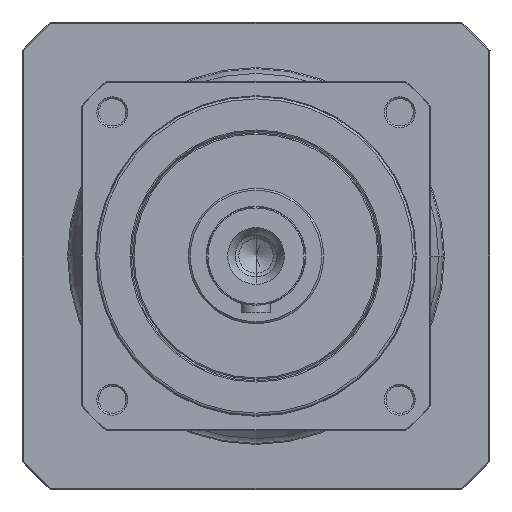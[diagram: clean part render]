
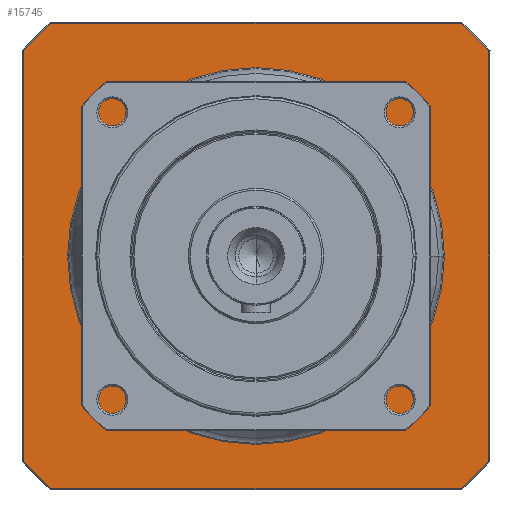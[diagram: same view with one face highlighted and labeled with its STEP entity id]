
A CAD part, left-side view. The second image highlights one B-rep face of the part: STEP entity #15745.
In plain terms, the highlighted planar face has unit normal (-1, 0, 0) as drawn and (0, 0, -1) by its records, which use the part's own axes.
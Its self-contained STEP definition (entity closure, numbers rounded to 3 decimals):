
#14627=CARTESIAN_POINT('',(0.,0.,
2.5));
#14628=DIRECTION('',(0.,0.,-1.));
#14629=DIRECTION('',(0.,-1.,0.));
#14630=AXIS2_PLACEMENT_3D('',#14627,#14628,#14629);
#14632=CARTESIAN_POINT('',(0.,0.,
2.5));
#14633=DIRECTION('',(0.,0.,-1.));
#14634=DIRECTION('',(0.,1.,0.));
#14635=AXIS2_PLACEMENT_3D('',#14632,#14633,#14634);
#14637=CARTESIAN_POINT('',(0.,0.,2.5));
#14638=DIRECTION('',(0.,0.,1.));
#14639=DIRECTION('',(-0.75,-0.661,0.));
#14640=AXIS2_PLACEMENT_3D('',#14637,#14638,#14639);
#14642=DIRECTION('',(1.,0.,0.));
#14643=VECTOR('',#14642,166.682);
#14644=CARTESIAN_POINT('',(-83.341,-94.5,
2.5));
#14645=LINE('',#14644,#14643);
#14646=CARTESIAN_POINT('',(0.,0.,2.5));
#14647=DIRECTION('',(0.,0.,1.));
#14648=DIRECTION('',(0.661,-0.75,0.));
#14649=AXIS2_PLACEMENT_3D('',#14646,#14647,#14648);
#14651=DIRECTION('',(0.,1.,0.));
#14652=VECTOR('',#14651,166.682);
#14653=CARTESIAN_POINT('',(94.5,-83.341,
2.5));
#14654=LINE('',#14653,#14652);
#14655=CARTESIAN_POINT('',(0.,0.,2.5));
#14656=DIRECTION('',(0.,0.,1.));
#14657=DIRECTION('',(0.75,0.661,0.));
#14658=AXIS2_PLACEMENT_3D('',#14655,#14656,#14657);
#14660=DIRECTION('',(-1.,0.,0.));
#14661=VECTOR('',#14660,166.682);
#14662=CARTESIAN_POINT('',(83.341,94.5,2.5));
#14663=LINE('',#14662,#14661);
#14664=CARTESIAN_POINT('',(0.,0.,2.5));
#14665=DIRECTION('',(0.,0.,1.));
#14666=DIRECTION('',(-0.661,0.75,0.));
#14667=AXIS2_PLACEMENT_3D('',#14664,#14665,#14666);
#14669=DIRECTION('',(0.,-1.,0.));
#14670=VECTOR('',#14669,166.682);
#14671=CARTESIAN_POINT('',(-94.5,83.341,
2.5));
#14672=LINE('',#14671,#14670);
#15394=CARTESIAN_POINT('',(0.,-76.5,2.5));
#15395=CARTESIAN_POINT('',(0.,76.5,
2.5));
#15396=VERTEX_POINT('',#15394);
#15397=VERTEX_POINT('',#15395);
#15498=CARTESIAN_POINT('',(-94.5,-83.341,2.5));
#15499=CARTESIAN_POINT('',(-83.341,-94.5,2.5));
#15500=VERTEX_POINT('',#15498);
#15501=VERTEX_POINT('',#15499);
#15506=CARTESIAN_POINT('',(83.341,-94.5,
2.5));
#15507=VERTEX_POINT('',#15506);
#15510=CARTESIAN_POINT('',(94.5,-83.341,2.5));
#15511=VERTEX_POINT('',#15510);
#15514=CARTESIAN_POINT('',(94.5,83.341,2.5));
#15515=VERTEX_POINT('',#15514);
#15518=CARTESIAN_POINT('',(83.341,94.5,2.5));
#15519=VERTEX_POINT('',#15518);
#15522=CARTESIAN_POINT('',(-83.341,94.5,
2.5));
#15523=VERTEX_POINT('',#15522);
#15528=CARTESIAN_POINT('',(-94.5,83.341,2.5));
#15529=VERTEX_POINT('',#15528);
#15717=CARTESIAN_POINT('',(0.,0.,2.5));
#15718=DIRECTION('',(0.,0.,1.));
#15719=DIRECTION('',(0.,1.,0.));
#15720=AXIS2_PLACEMENT_3D('',#15717,#15718,#15719);
#15721=PLANE('',#15720);
#15723=ORIENTED_EDGE('',*,*,#15722,.T.);
#15725=ORIENTED_EDGE('',*,*,#15724,.T.);
#15727=ORIENTED_EDGE('',*,*,#15726,.T.);
#15729=ORIENTED_EDGE('',*,*,#15728,.T.);
#15731=ORIENTED_EDGE('',*,*,#15730,.T.);
#15733=ORIENTED_EDGE('',*,*,#15732,.T.);
#15735=ORIENTED_EDGE('',*,*,#15734,.T.);
#15737=ORIENTED_EDGE('',*,*,#15736,.T.);
#15738=EDGE_LOOP('',(#15723,#15725,#15727,#15729,#15731,#15733,#15735,#15737));
#15739=FACE_OUTER_BOUND('',#15738,.F.);
#15741=ORIENTED_EDGE('',*,*,#15740,.T.);
#15742=ORIENTED_EDGE('',*,*,#15707,.T.);
#15743=EDGE_LOOP('',(#15741,#15742));
#15744=FACE_BOUND('',#15743,.F.);
#15745=ADVANCED_FACE('',(#15739,#15744),#15721,.F.);
#14631=CIRCLE('',#14630,76.5);
#14636=CIRCLE('',#14635,76.5);
#14641=CIRCLE('',#14640,126.);
#14650=CIRCLE('',#14649,126.);
#14659=CIRCLE('',#14658,126.);
#14668=CIRCLE('',#14667,126.);
#15707=EDGE_CURVE('',#15397,#15396,#14636,.T.);
#15722=EDGE_CURVE('',#15500,#15501,#14641,.T.);
#15724=EDGE_CURVE('',#15501,#15507,#14645,.T.);
#15726=EDGE_CURVE('',#15507,#15511,#14650,.T.);
#15728=EDGE_CURVE('',#15511,#15515,#14654,.T.);
#15730=EDGE_CURVE('',#15515,#15519,#14659,.T.);
#15732=EDGE_CURVE('',#15519,#15523,#14663,.T.);
#15734=EDGE_CURVE('',#15523,#15529,#14668,.T.);
#15736=EDGE_CURVE('',#15529,#15500,#14672,.T.);
#15740=EDGE_CURVE('',#15396,#15397,#14631,.T.);
